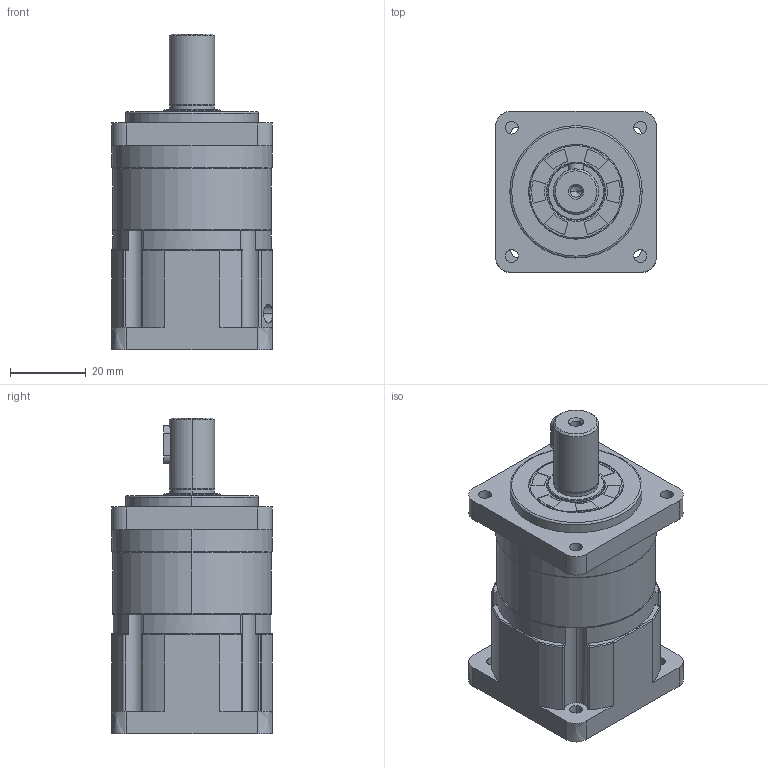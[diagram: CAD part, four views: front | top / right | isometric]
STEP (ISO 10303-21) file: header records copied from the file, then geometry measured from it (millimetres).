
FILE_DESCRIPTION (( 'STEP AP203' ), '1' );
FILE_NAME ('SB42-L1(5-22-43.84-3.STEP', '2021-12-14T03:55:40', ( '' ), ( '' ), 'SwSTEP 2.0', 'SolidWorks 2016', '' );
FILE_SCHEMA (( 'CONFIG_CONTROL_DESIGN' ));
Length unit declared in the file: millimetre
Products named in the file (10): SN42-(SP); SN42-(8); SN42-(12x20-4x10); 42-(O30-22x3.5); SN42; SN42-26x14x11-M4; SN42-15x25x4; SB42-L1(5-22-43.84-3; 42-(o8-5x15); SB42-(35x3-48-3.4)
Assembly tree (9 placements, depth 2):
  SB42-L1(5-22-43.84-3
    SB42-(35x3-48-3.4)
    SN42-15x25x4
    SN42-(12x20-4x10)
    SN42
    SN42-26x14x11-M4
    SN42-(SP)
    42-(O30-22x3.5)
    SN42-(8)
    42-(o8-5x15)
Bounding box: 42.5 x 42.5 x 83.5 mm (x, y, z)
Volume: 76819.4 mm3; surface area: 35457 mm2
Topology: 9 solids, 12 shells, 460 faces, 1154 edges, 731 vertices
Faces by surface type: cylinder 223, plane 126, bspline 41, torus 38, cone 32
Entity records: 26688 total; most frequent: CARTESIAN_POINT 14865, ORIENTED_EDGE 2284, DIRECTION 2247, EDGE_CURVE 1144, AXIS2_PLACEMENT_3D 906, VERTEX_POINT 731, EDGE_LOOP 530, CIRCLE 474
